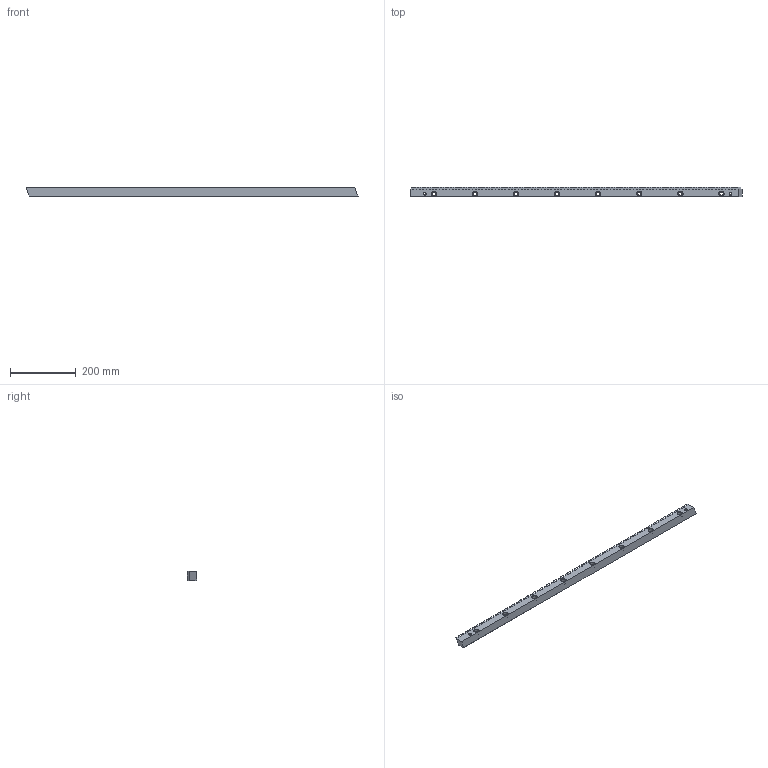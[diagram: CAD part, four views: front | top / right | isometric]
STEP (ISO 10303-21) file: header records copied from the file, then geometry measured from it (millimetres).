
FILE_DESCRIPTION (( 'STEP AP214' ), '1' );
FILE_NAME ('1HR35R030100H.STEP', '2021-12-06T09:53:29', ( '' ), ( '' ), 'SwSTEP 2.0', 'SolidWorks 2021', '' );
FILE_SCHEMA (( 'AUTOMOTIVE_DESIGN' ));
Length unit declared in the file: millimetre
Products named in the file (1): 1HR35R030100H
Bounding box: 1010.29 x 29 x 29 mm (x, y, z)
Volume: 717657.9 mm3; surface area: 145382.3 mm2
Topology: 1 solids, 1 shells, 1087 faces, 3195 edges, 2118 vertices
Faces by surface type: plane 615, cylinder 436, cone 36
Entity records: 35503 total; most frequent: CARTESIAN_POINT 8801, ORIENTED_EDGE 6390, DIRECTION 4679, EDGE_CURVE 3195, VECTOR 2287, LINE 2287, VERTEX_POINT 2118, AXIS2_PLACEMENT_3D 1196
